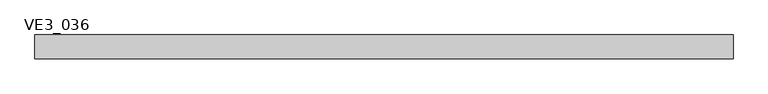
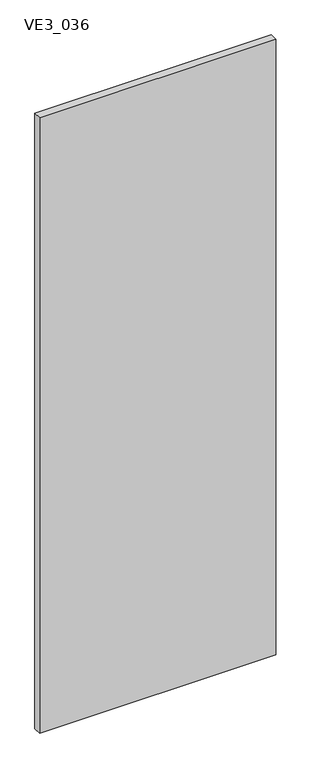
"""IFC4 building model written with IfcOpenShell, lengths in millimetres: plate geometry, TRP_CP_ARC_PF_RE_SE : VE3_036."""

from ifc_helpers import new_model, si_unit, frame, origin, place, context, project, spatial, polyline, outline, extrude, source, transform, mapped, element, save


def ve3_036_c729e5fc(model_context):
    return source(origin(), model_context, "Body", "SweptSolid", [
        extrude(outline(polyline([(532.5, 18.0), (532.5, -18.0), (-532.5, -18.0), (-532.5, 18.0), (532.5, 18.0)])), frame((0.0, 0.0, -3.1739529), z_axis=(0.0, 0.0, 1.0), x_axis=(1.0, 0.0, 0.0)), (0.0, 0.0, 1.0), 2933.1739529),
    ])


if __name__ == "__main__":
    model = new_model("IFC4")
    model_context = context("Model", 3, world=origin())
    ifc_project = project(units=[si_unit("LENGTHUNIT", "METRE", prefix="MILLI")], contexts=[model_context])
    site = spatial("IfcSite", under=ifc_project)
    building = spatial("IfcBuilding", under=site)
    placement = place(None, origin())
    ve3_036_shape = ve3_036_c729e5fc(model_context)
    element("IfcPlate", 1, ObjectType="TRP_CP_ARC_PF_RE_SE : VE3_036", at=placement, inside=building, context=model_context, shape_type="MappedRepresentation", body=[
        mapped(ve3_036_shape, transform((0.0, 0.0, 0.0), x_axis=(1.0, 0.0, 0.0), y_axis=(0.0, 1.0, 0.0), z_axis=(0.0, 0.0, 1.0))),
    ])
    save(model, "model.ifc")
